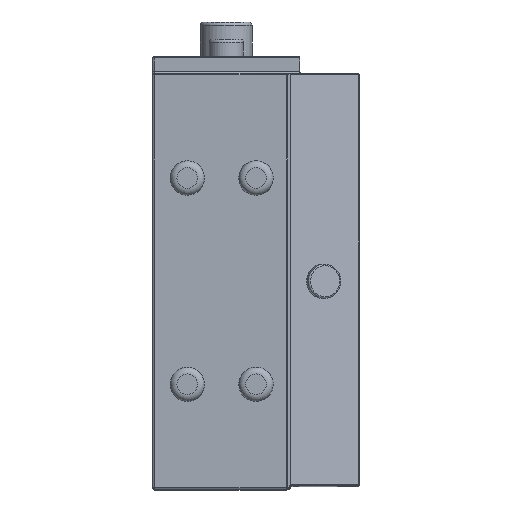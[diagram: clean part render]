
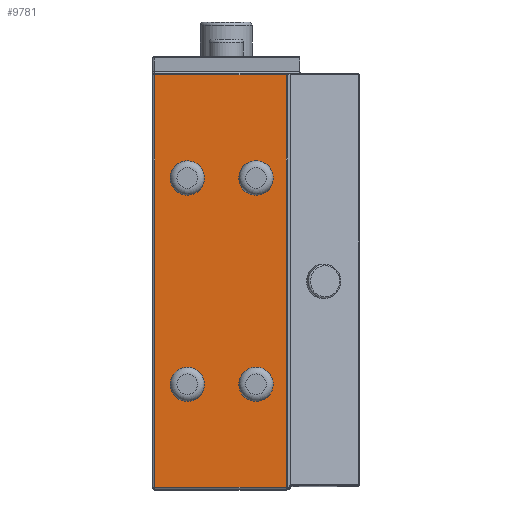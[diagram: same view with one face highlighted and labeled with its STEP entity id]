
A CAD part, top view. The second image highlights one B-rep face of the part: STEP entity #9781.
In plain terms, the highlighted planar face has unit normal (0, 0, 1).
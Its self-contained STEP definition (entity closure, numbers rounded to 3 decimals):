
#231=FACE_BOUND('',#3302,.T.);
#232=FACE_BOUND('',#3303,.T.);
#233=FACE_BOUND('',#3304,.T.);
#234=FACE_BOUND('',#3305,.T.);
#722=PLANE('',#10521);
#1267=LINE('',#16003,#2053);
#1268=LINE('',#16013,#2054);
#1269=LINE('',#16017,#2055);
#1270=LINE('',#16018,#2056);
#2053=VECTOR('',#12197,10.);
#2054=VECTOR('',#12214,10.);
#2055=VECTOR('',#12219,10.);
#2056=VECTOR('',#12220,10.);
#2703=FACE_OUTER_BOUND('',#3301,.T.);
#3301=EDGE_LOOP('',(#7915,#7916,#7917,#7918));
#3302=EDGE_LOOP('',(#7919,#7920));
#3303=EDGE_LOOP('',(#7921,#7922));
#3304=EDGE_LOOP('',(#7923,#7924));
#3305=EDGE_LOOP('',(#7925,#7926));
#3868=CIRCLE('',#10522,5.);
#3869=CIRCLE('',#10523,5.);
#3870=CIRCLE('',#10524,5.);
#3871=CIRCLE('',#10525,5.);
#3872=CIRCLE('',#10526,5.);
#3873=CIRCLE('',#10527,5.);
#3874=CIRCLE('',#10528,5.);
#3875=CIRCLE('',#10529,5.);
#4681=VERTEX_POINT('',#16000);
#4682=VERTEX_POINT('',#16002);
#4683=VERTEX_POINT('',#16012);
#4684=VERTEX_POINT('',#16016);
#4685=VERTEX_POINT('',#16019);
#4686=VERTEX_POINT('',#16020);
#4687=VERTEX_POINT('',#16023);
#4688=VERTEX_POINT('',#16024);
#4689=VERTEX_POINT('',#16027);
#4690=VERTEX_POINT('',#16028);
#4691=VERTEX_POINT('',#16031);
#4692=VERTEX_POINT('',#16032);
#5865=EDGE_CURVE('',#4681,#4682,#1267,.T.);
#5870=EDGE_CURVE('',#4682,#4683,#1268,.T.);
#5872=EDGE_CURVE('',#4684,#4681,#1269,.T.);
#5873=EDGE_CURVE('',#4683,#4684,#1270,.T.);
#5874=EDGE_CURVE('',#4685,#4686,#3868,.T.);
#5875=EDGE_CURVE('',#4686,#4685,#3869,.T.);
#5876=EDGE_CURVE('',#4687,#4688,#3870,.T.);
#5877=EDGE_CURVE('',#4688,#4687,#3871,.T.);
#5878=EDGE_CURVE('',#4689,#4690,#3872,.T.);
#5879=EDGE_CURVE('',#4690,#4689,#3873,.T.);
#5880=EDGE_CURVE('',#4691,#4692,#3874,.T.);
#5881=EDGE_CURVE('',#4692,#4691,#3875,.T.);
#7915=ORIENTED_EDGE('',*,*,#5865,.F.);
#7916=ORIENTED_EDGE('',*,*,#5872,.F.);
#7917=ORIENTED_EDGE('',*,*,#5873,.F.);
#7918=ORIENTED_EDGE('',*,*,#5870,.F.);
#7919=ORIENTED_EDGE('',*,*,#5874,.T.);
#7920=ORIENTED_EDGE('',*,*,#5875,.T.);
#7921=ORIENTED_EDGE('',*,*,#5876,.T.);
#7922=ORIENTED_EDGE('',*,*,#5877,.T.);
#7923=ORIENTED_EDGE('',*,*,#5878,.T.);
#7924=ORIENTED_EDGE('',*,*,#5879,.T.);
#7925=ORIENTED_EDGE('',*,*,#5880,.T.);
#7926=ORIENTED_EDGE('',*,*,#5881,.T.);
#9781=ADVANCED_FACE('',(#2703,#231,#232,#233,#234),#722,.T.);
#10521=AXIS2_PLACEMENT_3D('',#16015,#12217,#12218);
#10522=AXIS2_PLACEMENT_3D('',#16021,#12221,#12222);
#10523=AXIS2_PLACEMENT_3D('',#16022,#12223,#12224);
#10524=AXIS2_PLACEMENT_3D('',#16025,#12225,#12226);
#10525=AXIS2_PLACEMENT_3D('',#16026,#12227,#12228);
#10526=AXIS2_PLACEMENT_3D('',#16029,#12229,#12230);
#10527=AXIS2_PLACEMENT_3D('',#16030,#12231,#12232);
#10528=AXIS2_PLACEMENT_3D('',#16033,#12233,#12234);
#10529=AXIS2_PLACEMENT_3D('',#16034,#12235,#12236);
#12197=DIRECTION('',(0.,-1.,0.));
#12214=DIRECTION('',(-1.,0.,0.));
#12217=DIRECTION('center_axis',(0.,0.,1.));
#12218=DIRECTION('ref_axis',(1.,0.,0.));
#12219=DIRECTION('',(1.,0.,0.));
#12220=DIRECTION('',(0.,1.,0.));
#12221=DIRECTION('center_axis',(0.,0.,-1.));
#12222=DIRECTION('ref_axis',(1.,0.,0.));
#12223=DIRECTION('center_axis',(0.,0.,-1.));
#12224=DIRECTION('ref_axis',(1.,0.,0.));
#12225=DIRECTION('center_axis',(0.,0.,-1.));
#12226=DIRECTION('ref_axis',(1.,0.,0.));
#12227=DIRECTION('center_axis',(0.,0.,-1.));
#12228=DIRECTION('ref_axis',(1.,0.,0.));
#12229=DIRECTION('center_axis',(0.,0.,-1.));
#12230=DIRECTION('ref_axis',(1.,0.,0.));
#12231=DIRECTION('center_axis',(0.,0.,-1.));
#12232=DIRECTION('ref_axis',(1.,0.,0.));
#12233=DIRECTION('center_axis',(0.,0.,-1.));
#12234=DIRECTION('ref_axis',(1.,0.,0.));
#12235=DIRECTION('center_axis',(0.,0.,-1.));
#12236=DIRECTION('ref_axis',(1.,0.,0.));
#16000=CARTESIAN_POINT('',(8.793,60.,72.));
#16002=CARTESIAN_POINT('',(8.793,-60.,72.));
#16003=CARTESIAN_POINT('',(8.793,-60.5,72.));
#16012=CARTESIAN_POINT('',(-29.5,-60.,72.));
#16013=CARTESIAN_POINT('',(-15.,-60.,72.));
#16015=CARTESIAN_POINT('Origin',(-30.,-60.5,72.));
#16016=CARTESIAN_POINT('',(-29.5,60.,72.));
#16017=CARTESIAN_POINT('',(-15.,60.,72.));
#16018=CARTESIAN_POINT('',(-29.5,-30.25,72.));
#16019=CARTESIAN_POINT('',(5.,-30.,72.));
#16020=CARTESIAN_POINT('',(-5.,-30.,72.));
#16021=CARTESIAN_POINT('Origin',(0.,-30.,72.));
#16022=CARTESIAN_POINT('Origin',(0.,-30.,72.));
#16023=CARTESIAN_POINT('',(-15.,30.,72.));
#16024=CARTESIAN_POINT('',(-25.,30.,72.));
#16025=CARTESIAN_POINT('Origin',(-20.,30.,72.));
#16026=CARTESIAN_POINT('Origin',(-20.,30.,72.));
#16027=CARTESIAN_POINT('',(-15.,-30.,72.));
#16028=CARTESIAN_POINT('',(-25.,-30.,72.));
#16029=CARTESIAN_POINT('Origin',(-20.,-30.,72.));
#16030=CARTESIAN_POINT('Origin',(-20.,-30.,72.));
#16031=CARTESIAN_POINT('',(5.,30.,72.));
#16032=CARTESIAN_POINT('',(-5.,30.,72.));
#16033=CARTESIAN_POINT('Origin',(0.,30.,72.));
#16034=CARTESIAN_POINT('Origin',(0.,30.,72.));
